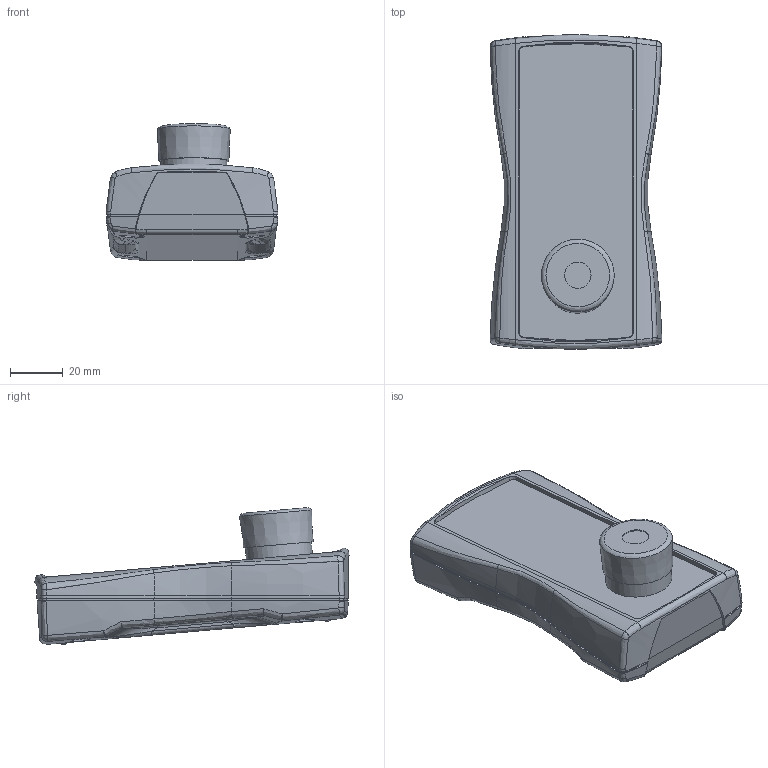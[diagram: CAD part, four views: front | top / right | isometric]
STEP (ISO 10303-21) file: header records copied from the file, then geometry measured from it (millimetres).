
FILE_DESCRIPTION((''),'2;1');
FILE_NAME('C:\Users\admin\Desktop\82400124_BS-400-F-7024_NH.stp','2024-02-02T13:33:58',('admin'),(''),'Autodesk Inventor 2013','Autodesk Inventor 2013','');
FILE_SCHEMA(('CONFIG_CONTROL_DESIGN'));
Length unit declared in the file: millimetre
Products named in the file (5): 82400124_BS-400-F-7024; 1009430_3D; 1009432_3D; SHRZKA30x10WN1412; Nothalt_Panel_V1
Assembly tree (7 placements, depth 2):
  82400124_BS-400-F-7024
    1009430_3D
    1009432_3D
    SHRZKA30x10WN1412  x4
    Nothalt_Panel_V1
Bounding box: 64.91 x 118.83 x 51.59 mm (x, y, z)
Volume: 68210.5 mm3; surface area: 51413.3 mm2
Topology: 7 solids, 7 shells, 1320 faces, 3257 edges, 1996 vertices
Faces by surface type: bspline 523, cylinder 283, plane 278, cone 129, sphere 78, torus 29
Full cylindrical faces by diameter (mm): 1.9 x28, 5.3 x4, 10 x1, 25 x1
Entity records: 60809 total; most frequent: CARTESIAN_POINT 37833, ORIENTED_EDGE 5014, DIRECTION 4300, EDGE_CURVE 2507, AXIS2_PLACEMENT_3D 1835, VERTEX_POINT 1606, EDGE_LOOP 1175, FACE_OUTER_BOUND 1038
